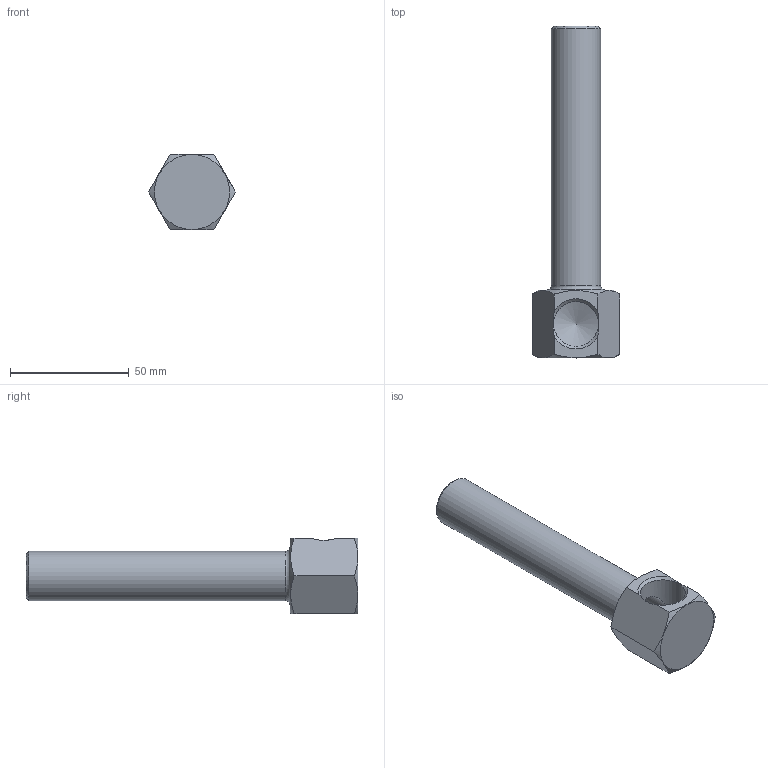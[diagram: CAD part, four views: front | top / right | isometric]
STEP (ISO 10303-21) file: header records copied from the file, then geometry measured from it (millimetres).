
FILE_DESCRIPTION(/* description */ (''),/* implementation_level */ '2;1');
FILE_NAME(/* name */ 'C:/Users/drich/Desktop/50B-5-1_2 v1.step',/* time_stamp */ '2019-12-29T15:26:01-06:00',/* author */ (''),/* organization */ (''),/* preprocessor_version */ 'ST-DEVELOPER v18',/* originating_system */ 'Autodesk Translation Framework v8.12.0.6',/* authorisation */ '');
FILE_SCHEMA (('AUTOMOTIVE_DESIGN { 1 0 10303 214 3 1 1 }'));
Length unit declared in the file: inch
Products named in the file (1): 50B-5-1_2
Bounding box: 36.66 x 139.7 x 31.75 mm (x, y, z)
Volume: 34776 mm3; surface area: 18531.1 mm2
Topology: 1 solids, 1 shells, 20 faces, 53 edges, 35 vertices
Faces by surface type: plane 10, cone 6, cylinder 3, torus 1
Full cylindrical faces by diameter (mm): 15.062 x1, 18.901 x1, 20.813 x1
Entity records: 687 total; most frequent: CARTESIAN_POINT 184, ORIENTED_EDGE 104, DIRECTION 91, EDGE_CURVE 52, AXIS2_PLACEMENT_3D 37, VERTEX_POINT 35, EDGE_LOOP 23, FACE_OUTER_BOUND 20
